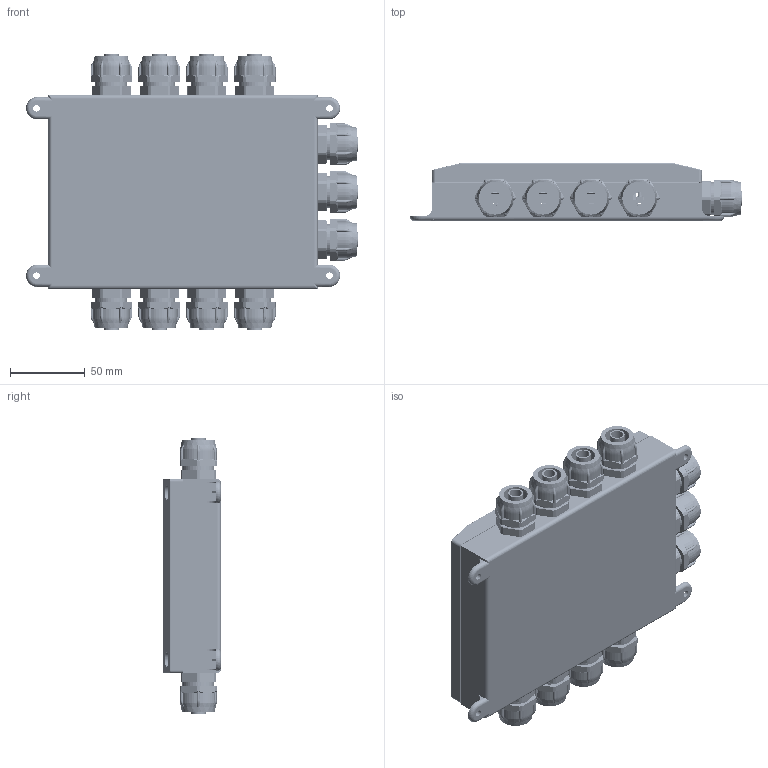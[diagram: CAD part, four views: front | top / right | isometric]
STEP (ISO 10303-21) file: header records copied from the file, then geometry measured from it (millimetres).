
FILE_DESCRIPTION((''),'1');
FILE_NAME('ETLB_8-channel_ABS-R.step','2023-11-06T13:16:23',(''),(''),'','','');
FILE_SCHEMA(('AUTOMOTIVE_DESIGN { 1 0 10303 214 1 1 1 1 }'));
Products named in the file (38): ETLB cover 01; ETLB body 01; ETLB seal 01; ETLB washer 01; ETLB screw 01; ETLB 8-channel_ABS-R; ETLB part 02; ETLB screw 02; ETLB part 03; ETLB screw 04; ETLB part 04; ETLB part 05; ETLB display 01; ETLB display 02; ETLB spacer 01; ETLB spacer 02; ETLB part 06; ETLB part 07; ETLB part 08; ETLB part 09; ETLB button 01; ETLB part 10; ETLB cover 02; ETLB nut 01; ETLB connector 01; 1; 12; 13; ETLB part 12; ETLB part 13; 2; 22; 23; ETLB circuit board 01; ETLB housing 01; ETLB body 03; ETLB part 15; ETLB part 16
Assembly tree (97 placements, depth 6):
  ETLB 8-channel_ABS-R
    ETLB cover 01
      ETLB body 01
      ETLB seal 01
      ETLB washer 01  x4
      ETLB screw 01  x4
    ETLB part 02
      ETLB screw 02  x4
      ETLB part 03
        ETLB screw 04  x4
        ETLB part 04
        ETLB part 05
        ETLB display 01
        ETLB display 02
        ETLB spacer 01  x2
        ETLB spacer 02  x4
        ETLB part 06  x4
        ETLB part 07
        ETLB part 08
        ETLB part 09  x2
        ETLB button 01  x4
      ETLB part 10
        ETLB cover 02
        ETLB nut 01  x4
        ETLB connector 01
        ETLB part 12
          1
            12  x10
            13  x10
          ETLB part 13
          2
            22  x4
            23
      ETLB circuit board 01
    ETLB housing 01
      ETLB body 03
      ETLB part 15  x4
    ETLB part 16  x11
Bounding box: 222 x 38.5 x 184 mm (x, y, z)
Volume: 401783.8 mm3; surface area: 290977.1 mm2
Topology: 89 solids, 100 shells, 7798 faces, 19207 edges, 12257 vertices
Faces by surface type: plane 4262, cylinder 2310, cone 750, torus 424, sphere 48, bspline 4
Entity records: 133389 total; most frequent: CARTESIAN_POINT 25313, DIRECTION 19836, ORIENTED_EDGE 19604, EDGE_CURVE 9824, AXIS2_PLACEMENT_3D 6618, LINE 6600, VECTOR 6600, VERTEX_POINT 6344
